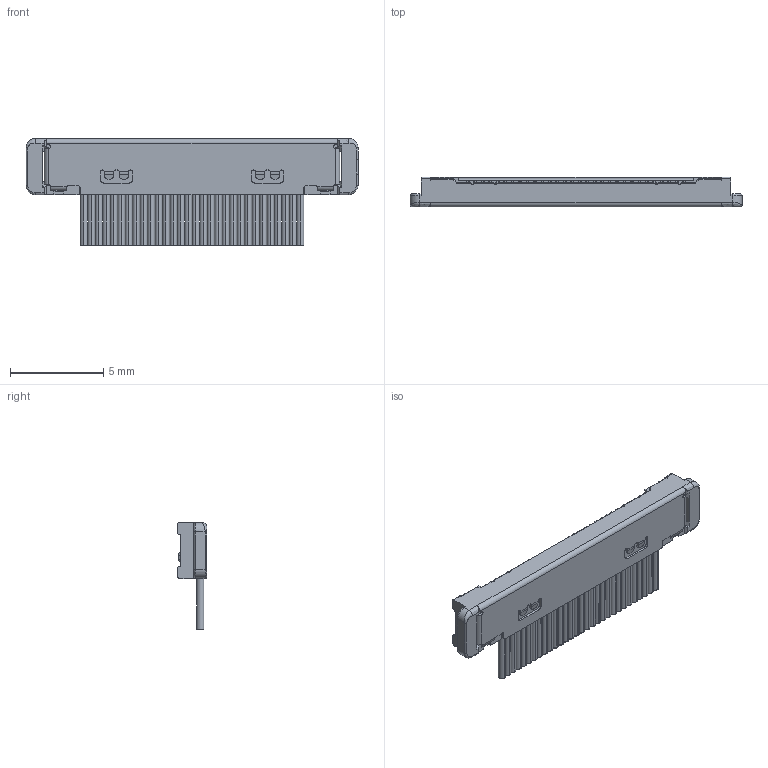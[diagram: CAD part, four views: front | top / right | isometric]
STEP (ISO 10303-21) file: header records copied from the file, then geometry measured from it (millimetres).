
FILE_DESCRIPTION (( 'STEP AP203' ), '1' );
FILE_NAME ('20380-030T-03C PLUG CABLE ASSY STEP R7R2 ALL.STEP', '2012-03-16T11:36:53', ( ' ' ), ( ' ' ), 'SwSTEP 2.0', 'SolidWorks 2011', '' );
FILE_SCHEMA (( 'CONFIG_CONTROL_DESIGN' ));
Length unit declared in the file: millimetre
Products named in the file (1): 20380-030T-03C PLUG CABLE ASSY STEP R7R2 ALL
Bounding box: 17.8 x 1.6 x 5.72 mm (x, y, z)
Volume: 62.3 mm3; surface area: 572.1 mm2
Topology: 31 solids, 31 shells, 1167 faces, 3312 edges, 2136 vertices
Faces by surface type: plane 730, cylinder 383, sphere 30, torus 14, bspline 6, cone 4
Entity records: 37969 total; most frequent: CARTESIAN_POINT 7794, ORIENTED_EDGE 6444, DIRECTION 6243, EDGE_CURVE 3222, AXIS2_PLACEMENT_3D 2088, VERTEX_POINT 2076, LINE 2067, VECTOR 2067
